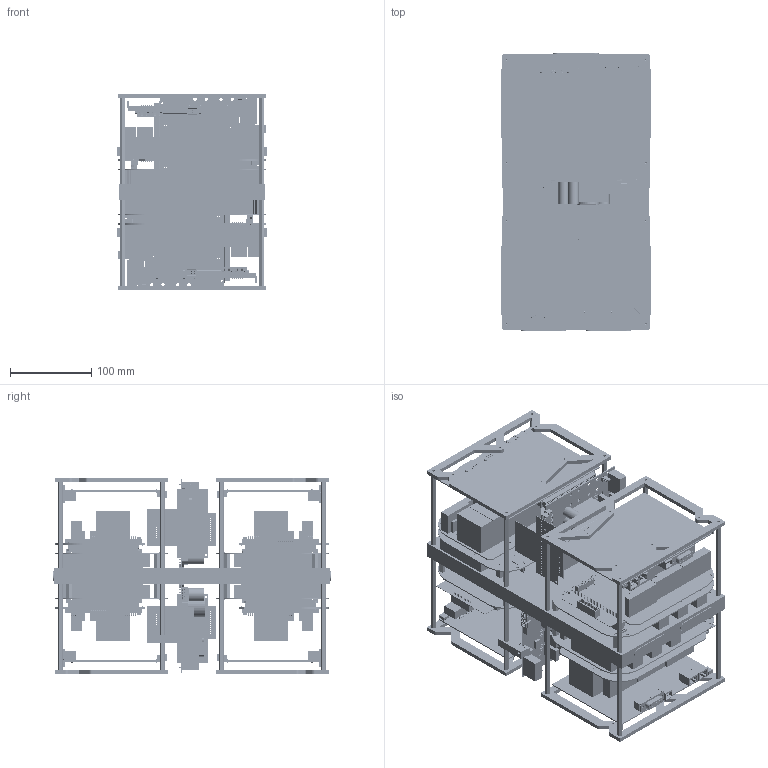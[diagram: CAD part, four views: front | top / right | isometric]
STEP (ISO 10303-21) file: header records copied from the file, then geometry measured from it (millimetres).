
FILE_DESCRIPTION( ( 'Unknown' ), '1' );
FILE_NAME( 'Q:/Zentrale Teileablage/Entwürfe/X01423 Greenteam/KWS26_Einzelteile/47541_neu.stp', 'Unknown', ( 'Unknown' ), ( 'Unknown' ), 'PSStep 14.0', 'Unknown', ' ' );
FILE_SCHEMA( ( 'AUTOMOTIVE_DESIGN { 1 0 10303 214 1 1 1 1 }' ) );
Length unit declared in the file: millimetre
Products named in the file (459): 47541_KWS_R06; 23132; 204324; 25496; MCE-R06-106; KWS26-A-102-FSE; kws26-z-FSE-102; Adapterplatine _AE-KWS26-A-FSE; 29314_KW26-S5; 29546_Verschluß_56; 47541_kompakt; KE-V30_101; 29037_LP_Feuhrung_RCGH-35; Platinenhalter; 26750; Adapterplatine_AE-V24-FSE; Assem1
Assembly tree (473 placements, depth 4):
  Assem1
    29314_KW26-S5
      29314_KW26-S5
      29546_Verschluß_56  x3
    47541_kompakt  x2
      KE-V30_101
      KE-V30_101
      KE-V30_101
      KE-V30_101
      29037_LP_Feuhrung_RCGH-35
      Platinenhalter
      26750
      Adapterplatine_AE-V24-FSE
      Adapterplatine_AE-V24-FSE
      47541_KWS_R06
        23132  x4
        204324
        25496  x4
        MCE-R06-106
        MCE-R06-106
        MCE-R06-106
        MCE-R06-106
        MCE-R06-106
        MCE-R06-106
        MCE-R06-106
        MCE-R06-106
        MCE-R06-106
        MCE-R06-106
        MCE-R06-106
        MCE-R06-106
        MCE-R06-106
        MCE-R06-106
        MCE-R06-106
        MCE-R06-106
        MCE-R06-106
        MCE-R06-106
        MCE-R06-106
        MCE-R06-106
        MCE-R06-106
        MCE-R06-106
        MCE-R06-106
        MCE-R06-106
        MCE-R06-106
        MCE-R06-106
        MCE-R06-106
        MCE-R06-106
        MCE-R06-106
        MCE-R06-106
        MCE-R06-106
        MCE-R06-106
        MCE-R06-106
        MCE-R06-106
        MCE-R06-106
        MCE-R06-106
        MCE-R06-106
        MCE-R06-106
        MCE-R06-106
        MCE-R06-106
        MCE-R06-106
        MCE-R06-106
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Bounding box: 183.87 x 341 x 240.48 mm (x, y, z)
Volume: 3238245.8 mm3; surface area: 1457590.7 mm2
Topology: 90 solids, 1874 shells, 50882 faces, 137610 edges, 90582 vertices
Faces by surface type: plane 32898, cylinder 12322, bspline 3416, torus 1056, sphere 1024, cone 166
Full cylindrical faces by diameter (mm): 0.457 x10, 0.8 x8, 0.914 x112, 1.016 x968, 1.041 x660, 1.194 x86, 1.2 x8, 1.219 x36, 1.295 x24, 1.3 x60, 1.321 x106, 1.397 x86, 1.6 x58, 1.651 x4, 1.803 x12, 2.007 x96, 2.459 x94, 2.5 x12, 2.794 x28, 2.8 x16, 2.997 x16, 3 x40, 3.048 x8, 3.099 x28, 3.2 x22, 3.226 x4, 3.242 x40, 3.3 x16, 3.4 x2, 3.5 x16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
Entity records: 543108 total; most frequent: CARTESIAN_POINT 106137, ORIENTED_EDGE 70412, DIRECTION 66494, EDGE_CURVE 36283, LINE 26244, VECTOR 26244, VERTEX_POINT 24635, AXIS2_PLACEMENT_3D 20125
